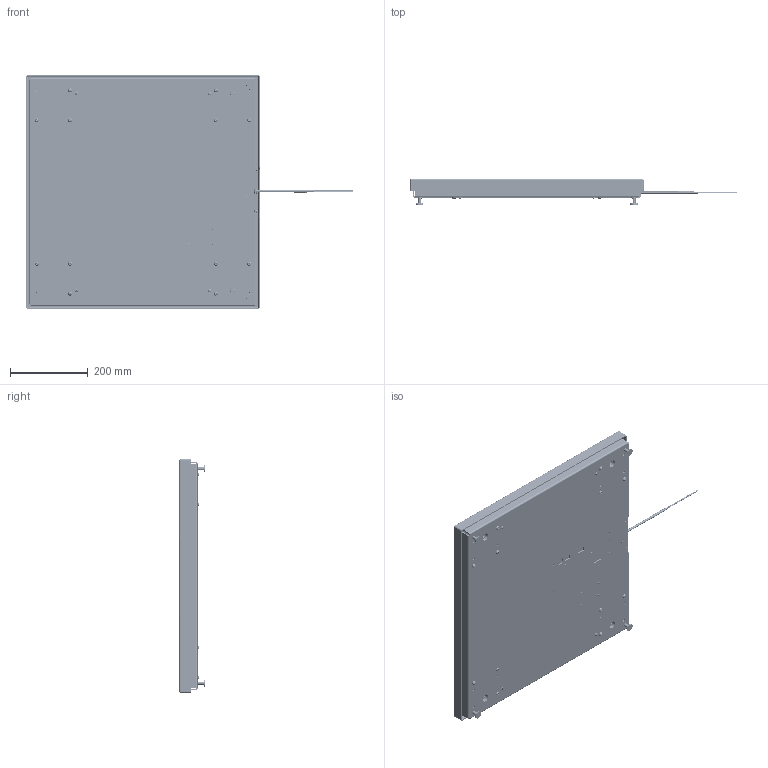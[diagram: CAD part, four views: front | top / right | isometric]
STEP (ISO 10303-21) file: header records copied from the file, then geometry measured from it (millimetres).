
FILE_DESCRIPTION (( 'STEP AP214' ), '1' );
FILE_NAME ('HI2424SBU-660.STEP', '2019-08-13T22:36:02', ( '' ), ( '' ), 'SwSTEP 2.0', 'SolidWorks 2017', '' );
FILE_SCHEMA (( 'AUTOMOTIVE_DESIGN' ));
Length unit declared in the file: millimetre
Products named in the file (41): 0075232_80-001903; 0074918; 0074536; 0075198; 0075293; 0075309; 0074535; 0018546; 0530-0629-XX; HI2424SBU-660; 0074534; 2814-0098-0_90633A007; 0075290; hex jam nut_ai_HJNUT 0.2500-20-D-N; 0075200_93505A451; 0075174_6; 0075294; 0075295; 2817-0272-0_90402A146; 0530-0628-01; 0075172_A6; 0074915_Modified By Hardy_Default<As Machined>; 0075231_PBSH-300kg 600 X 600; LOAD CELL CABLE; socket head cap screw_am_B18.3.1M - 4 x 0.7 x 8 Hex SHCS -- 8NHX-A2.70; 0075305_42-000848; 0075230_91780A198; 0075233; 0514-0239-01-0; 2808-0013-0; 0067067; 0074757_Modified By Hardy; 0075175_84-001319; flat head screw_ai_CR-FHMS 0.164-32x0.875x0.875-N-A2.70; 0078239; socket button head cap screw_am_B18.3.4M - 6 x 1.0 x 20 SBHCS --N-A2.70; pan cross head_ai_CR-PHMS 0.164-32x0.3125x0.3125-N-A2.70; 0074904; socket head cap screw_am_B18.3.1M - 5 x 0.8 x 20 Hex SHCS -- 20NHX-A2.70; 0075173_B6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
Assembly tree (86 placements, depth 4):
  HI2424SBU-660
    0074904
      0074915_Modified By Hardy_Default<As Machined>
      0074918  x4
      0078239
    0075309
    0075175_84-001319  x4
      0075172_A6
      0075174_6
      0075173_B6
    hex jam nut_ai_HJNUT 0.2500-20-D-N  x4
    0074757_Modified By Hardy
    0075198  x4
    0075200_93505A451  x4
    0075290
      0075233
      0018546  x4
      0075287_C2 CHIP
      0075295  x4
        0075294
        0075293
    pan cross head_ai_CR-PHMS 0.164-32x0.3125x0.3125-N-A2.70  x4
    0074536  x4
      0074534
      0074535
      0067067
      socket head cap screw_am_B18.3.1M - 5 x 0.8 x 20 Hex SHCS -- 20NHX-A2.70
    0075231_PBSH-300kg 600 X 600  x4
      0075230_91780A198
      0075232_80-001903
      flat head screw_ai_CR-FHMS 0.164-32x0.875x0.875-N-A2.70
      pan cross head_ai_CR-PHMS 0.164-32x0.3125x0.3125-N-A2.70
    socket button head cap screw_am_B18.3.4M - 6 x 1.0 x 20 SBHCS --N-A2.70  x12
    2814-0098-0_90633A007  x2
    0514-0239-01-0
    2817-0272-0_90402A146
    2808-0013-0
    LOAD CELL CABLE
    socket head cap screw_am_B18.3.1M - 4 x 0.7 x 8 Hex SHCS -- 8NHX-A2.70
    0075305_42-000848
    0530-0628-01
    0530-0629-XX
Bounding box: 852.36 x 66.39 x 600 mm (x, y, z)
Volume: 3017557 mm3; surface area: 1949011.4 mm2
Topology: 212 solids, 212 shells, 9584 faces, 24578 edges, 15803 vertices
Faces by surface type: plane 6326, cylinder 1662, cone 752, bspline 650, torus 148, sphere 46
Entity records: 268358 total; most frequent: CARTESIAN_POINT 59151, ORIENTED_EDGE 33720, DIRECTION 28822, EDGE_CURVE 16860, LINE 13518, VECTOR 13518, VERTEX_POINT 11049, AXIS2_PLACEMENT_3D 7652
